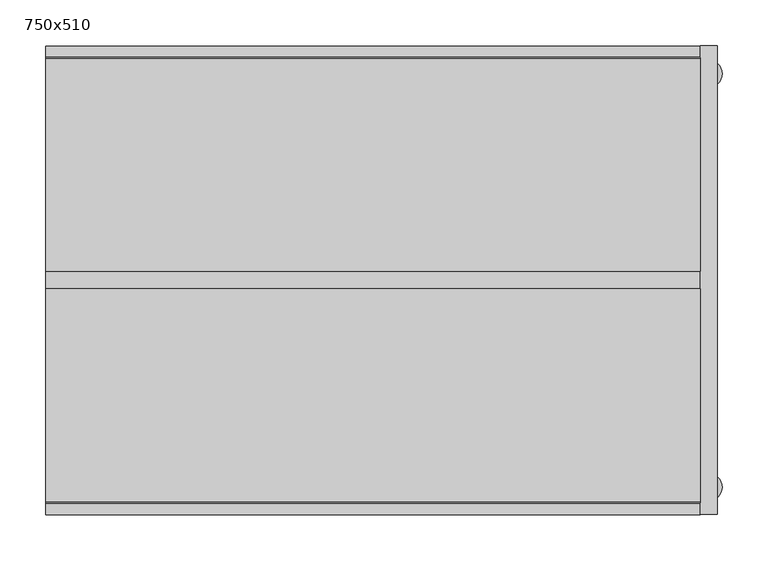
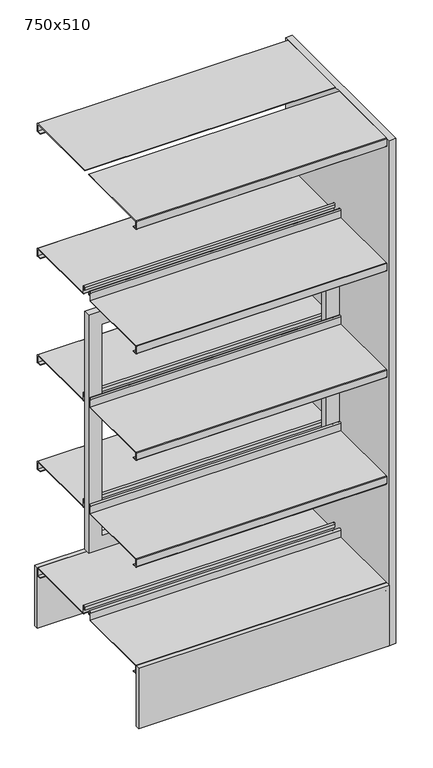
"""IFC4 building model written with IfcOpenShell, lengths in millimetres: furniture geometry, BK Library - Smaaland DF - 1530 : 750x510."""

from ifc_helpers import new_model, si_unit, point, frame, frame_2d, origin, origin_with_axes, place, context, project, spatial, polyline, circle_curve, trimmed, segment, composite_curve, outline, extrude, source, transform, mapped, element, save


def furniture_750x510_6c40ee6c(model_context):
    return source(origin(), model_context, "Body", "SweptSolid", [
        extrude(outline(polyline([(356.0, 255.0), (356.0, 242.7476624), (-356.0, 242.7476624), (-356.0, 255.0), (356.0, 255.0)])), frame((0.0, 0.0, 13.6999998), z_axis=(0.0, 0.0, 1.0), x_axis=(1.0, 0.0, 0.0)), (0.0, 0.0, 1.0), 181.4999514),
        extrude(outline(polyline([(356.0, -242.7476624), (356.0, -255.0), (-356.0, -255.0), (-356.0, -242.7476624), (356.0, -242.7476624)])), frame((0.0, 0.0, 13.6999998), z_axis=(0.0, 0.0, 1.0), x_axis=(1.0, 0.0, 0.0)), (0.0, 0.0, 1.0), 181.4999514),
        extrude(outline(polyline([(1106.1999512, -356.0), (391.1999512, -356.0), (391.1999512, 356.0), (1106.1999512, 356.0), (1106.1999512, -356.0)]), holes=[polyline([(1066.1999514, -317.5), (1066.1999514, 317.5), (431.1999514, 317.5), (431.1999514, -317.5), (1066.1999514, -317.5)])]), frame((0.0, -9.5, 0.0), z_axis=(0.0, 1.0, 0.0), x_axis=(0.0, 0.0, 1.0)), (0.0, 0.0, 1.0), 19.0),
        extrude(outline(composite_curve([segment(polyline([(9.5, 1530.0), (241.25, 1530.0)]), True, "CONTINUOUS"), segment(trimmed(circle_curve(frame_2d((241.25, 1528.5)), 1.5), [point((241.25, 1530.0))], [point((242.75, 1528.5))], False, "CARTESIAN"), True, "CONTINUOUS"), segment(polyline([(242.75, 1528.5), (242.75, 1506.5)]), True, "CONTINUOUS"), segment(trimmed(circle_curve(frame_2d((241.25, 1506.5)), 1.5), [point((242.75, 1506.5))], [point((241.25, 1505.0))], False, "CARTESIAN"), True, "CONTINUOUS"), segment(polyline([(241.25, 1505.0), (229.25, 1505.0), (229.25, 1506.5), (241.25, 1506.5), (241.25, 1528.0), (9.5, 1528.0), (9.5, 1530.0)]), True, "CONTINUOUS")], self_intersect=False)), frame((-356.0, 0.0, 0.0), z_axis=(1.0, 0.0, 0.0), x_axis=(0.0, 1.0, 0.0)), (0.0, 0.0, 1.0), 712.0),
        extrude(outline(composite_curve([segment(polyline([(17.75, 1155.1999512), (241.25, 1155.1999512)]), True, "CONTINUOUS"), segment(trimmed(circle_curve(frame_2d((241.25, 1153.6999512)), 1.5), [point((241.25, 1155.1999512))], [point((242.75, 1153.6999512))], False, "CARTESIAN"), True, "CONTINUOUS"), segment(polyline([(242.75, 1153.6999512), (242.75, 1132.1999512)]), True, "CONTINUOUS"), segment(trimmed(circle_curve(frame_2d((241.25, 1132.1999512)), 1.5), [point((242.75, 1132.1999512))], [point((241.25, 1130.6999512))], False, "CARTESIAN"), True, "CONTINUOUS"), segment(polyline([(241.25, 1130.6999512), (229.25, 1130.6999512), (229.25, 1132.1999512), (241.25, 1132.1999512), (241.25, 1153.6999512), (17.7048221, 1153.6999512)]), True, "CONTINUOUS"), segment(trimmed(circle_curve(frame_2d((17.7048221, 1155.1547733)), 1.4548221), [point((17.7048221, 1153.6999512))], [point((16.25, 1155.1547733))], False, "CARTESIAN"), True, "CONTINUOUS"), segment(polyline([(16.25, 1155.1547733), (16.25, 1176.7020126)]), True, "CONTINUOUS"), segment(trimmed(circle_curve(frame_2d((14.25, 1176.7020126)), 2.0), [point((16.25, 1176.7020126))], [point((12.25, 1176.7020126))], True, "CARTESIAN"), True, "CONTINUOUS"), segment(polyline([(12.25, 1176.7020126), (12.25, 1168.1999512), (10.75, 1168.1999512), (10.75, 1176.7196336)]), True, "CONTINUOUS"), segment(trimmed(circle_curve(frame_2d((14.25, 1176.7196336)), 3.5), [point((10.75, 1176.7196336))], [point((17.75, 1176.7196336))], False, "CARTESIAN"), True, "CONTINUOUS"), segment(polyline([(17.75, 1176.7196336), (17.75, 1155.1999512)]), True, "CONTINUOUS")], self_intersect=False)), frame((-356.0, 0.0, 0.0), z_axis=(1.0, 0.0, 0.0), x_axis=(0.0, 1.0, 0.0)), (0.0, 0.0, 1.0), 712.0),
        extrude(outline(composite_curve([segment(polyline([(17.75, 835.1999512), (241.25, 835.1999512)]), True, "CONTINUOUS"), segment(trimmed(circle_curve(frame_2d((241.25, 833.6999512)), 1.5), [point((241.25, 835.1999512))], [point((242.75, 833.6999512))], False, "CARTESIAN"), True, "CONTINUOUS"), segment(polyline([(242.75, 833.6999512), (242.75, 812.1999512)]), True, "CONTINUOUS"), segment(trimmed(circle_curve(frame_2d((241.25, 812.1999512)), 1.5), [point((242.75, 812.1999512))], [point((241.25, 810.6999512))], False, "CARTESIAN"), True, "CONTINUOUS"), segment(polyline([(241.25, 810.6999512), (229.25, 810.6999512), (229.25, 812.1999512), (241.25, 812.1999512), (241.25, 833.6999512), (17.7048221, 833.6999512)]), True, "CONTINUOUS"), segment(trimmed(circle_curve(frame_2d((17.7048221, 835.1547733)), 1.4548221), [point((17.7048221, 833.6999512))], [point((16.25, 835.1547733))], False, "CARTESIAN"), True, "CONTINUOUS"), segment(polyline([(16.25, 835.1547733), (16.25, 856.7020126)]), True, "CONTINUOUS"), segment(trimmed(circle_curve(frame_2d((14.25, 856.7020126)), 2.0), [point((16.25, 856.7020126))], [point((12.25, 856.7020126))], True, "CARTESIAN"), True, "CONTINUOUS"), segment(polyline([(12.25, 856.7020126), (12.25, 848.1999512), (10.75, 848.1999512), (10.75, 856.7196336)]), True, "CONTINUOUS"), segment(trimmed(circle_curve(frame_2d((14.25, 856.7196336)), 3.5), [point((10.75, 856.7196336))], [point((17.75, 856.7196336))], False, "CARTESIAN"), True, "CONTINUOUS"), segment(polyline([(17.75, 856.7196336), (17.75, 835.1999512)]), True, "CONTINUOUS")], self_intersect=False)), frame((-356.0, 0.0, 0.0), z_axis=(1.0, 0.0, 0.0), x_axis=(0.0, 1.0, 0.0)), (0.0, 0.0, 1.0), 712.0),
        extrude(outline(composite_curve([segment(polyline([(17.75, 515.1999512), (241.25, 515.1999512)]), True, "CONTINUOUS"), segment(trimmed(circle_curve(frame_2d((241.25, 513.6999512)), 1.5), [point((241.25, 515.1999512))], [point((242.75, 513.6999512))], False, "CARTESIAN"), True, "CONTINUOUS"), segment(polyline([(242.75, 513.6999512), (242.75, 492.1999512)]), True, "CONTINUOUS"), segment(trimmed(circle_curve(frame_2d((241.25, 492.1999512)), 1.5), [point((242.75, 492.1999512))], [point((241.25, 490.6999512))], False, "CARTESIAN"), True, "CONTINUOUS"), segment(polyline([(241.25, 490.6999512), (229.25, 490.6999512), (229.25, 492.1999512), (241.25, 492.1999512), (241.25, 513.6999512), (17.7048221, 513.6999512)]), True, "CONTINUOUS"), segment(trimmed(circle_curve(frame_2d((17.7048221, 515.1547733)), 1.4548221), [point((17.7048221, 513.6999512))], [point((16.25, 515.1547733))], False, "CARTESIAN"), True, "CONTINUOUS"), segment(polyline([(16.25, 515.1547733), (16.25, 536.7020126)]), True, "CONTINUOUS"), segment(trimmed(circle_curve(frame_2d((14.25, 536.7020126)), 2.0), [point((16.25, 536.7020126))], [point((12.25, 536.7020126))], True, "CARTESIAN"), True, "CONTINUOUS"), segment(polyline([(12.25, 536.7020126), (12.25, 528.1999512), (10.75, 528.1999512), (10.75, 536.7196336)]), True, "CONTINUOUS"), segment(trimmed(circle_curve(frame_2d((14.25, 536.7196336)), 3.5), [point((10.75, 536.7196336))], [point((17.75, 536.7196336))], False, "CARTESIAN"), True, "CONTINUOUS"), segment(polyline([(17.75, 536.7196336), (17.75, 515.1999512)]), True, "CONTINUOUS")], self_intersect=False)), frame((-356.0, 0.0, 0.0), z_axis=(1.0, 0.0, 0.0), x_axis=(0.0, 1.0, 0.0)), (0.0, 0.0, 1.0), 712.0),
        extrude(outline(composite_curve([segment(polyline([(17.75, 195.1999512), (241.25, 195.1999512)]), True, "CONTINUOUS"), segment(trimmed(circle_curve(frame_2d((241.25, 193.6999512)), 1.5), [point((241.25, 195.1999512))], [point((242.75, 193.6999512))], False, "CARTESIAN"), True, "CONTINUOUS"), segment(polyline([(242.75, 193.6999512), (242.75, 172.1999512)]), True, "CONTINUOUS"), segment(trimmed(circle_curve(frame_2d((241.25, 172.1999512)), 1.5), [point((242.75, 172.1999512))], [point((241.25, 170.6999512))], False, "CARTESIAN"), True, "CONTINUOUS"), segment(polyline([(241.25, 170.6999512), (229.25, 170.6999512), (229.25, 172.1999512), (241.25, 172.1999512), (241.25, 193.6999512), (17.7048221, 193.6999512)]), True, "CONTINUOUS"), segment(trimmed(circle_curve(frame_2d((17.7048221, 195.1547733)), 1.4548221), [point((17.7048221, 193.6999512))], [point((16.25, 195.1547733))], False, "CARTESIAN"), True, "CONTINUOUS"), segment(polyline([(16.25, 195.1547733), (16.25, 216.7020126)]), True, "CONTINUOUS"), segment(trimmed(circle_curve(frame_2d((14.25, 216.7020126)), 2.0), [point((16.25, 216.7020126))], [point((12.25, 216.7020126))], True, "CARTESIAN"), True, "CONTINUOUS"), segment(polyline([(12.25, 216.7020126), (12.25, 208.1999512), (10.75, 208.1999512), (10.75, 216.7196336)]), True, "CONTINUOUS"), segment(trimmed(circle_curve(frame_2d((14.25, 216.7196336)), 3.5), [point((10.75, 216.7196336))], [point((17.75, 216.7196336))], False, "CARTESIAN"), True, "CONTINUOUS"), segment(polyline([(17.75, 216.7196336), (17.75, 195.1999512)]), True, "CONTINUOUS")], self_intersect=False)), frame((-356.0, 0.0, 0.0), z_axis=(1.0, 0.0, 0.0), x_axis=(0.0, 1.0, 0.0)), (0.0, 0.0, 1.0), 712.0),
        extrude(outline(composite_curve([segment(polyline([(-9.5, 1530.0), (-9.5, 1528.0), (-241.25, 1528.0), (-241.25, 1506.5), (-229.25, 1506.5), (-229.25, 1505.0), (-241.25, 1505.0)]), True, "CONTINUOUS"), segment(trimmed(circle_curve(frame_2d((-241.25, 1506.5)), 1.5), [point((-241.25, 1505.0))], [point((-242.75, 1506.5))], False, "CARTESIAN"), True, "CONTINUOUS"), segment(polyline([(-242.75, 1506.5), (-242.75, 1528.5)]), True, "CONTINUOUS"), segment(trimmed(circle_curve(frame_2d((-241.25, 1528.5)), 1.5), [point((-242.75, 1528.5))], [point((-241.25, 1530.0))], False, "CARTESIAN"), True, "CONTINUOUS"), segment(polyline([(-241.25, 1530.0), (-9.5, 1530.0)]), True, "CONTINUOUS")], self_intersect=False)), frame((-356.0, 0.0, 0.0), z_axis=(1.0, 0.0, 0.0), x_axis=(0.0, 1.0, 0.0)), (0.0, 0.0, 1.0), 712.0),
        extrude(outline(composite_curve([segment(polyline([(-17.75, 1155.1999512), (-17.75, 1176.7196336)]), True, "CONTINUOUS"), segment(trimmed(circle_curve(frame_2d((-14.25, 1176.7196336)), 3.5), [point((-17.75, 1176.7196336))], [point((-10.75, 1176.7196336))], False, "CARTESIAN"), True, "CONTINUOUS"), segment(polyline([(-10.75, 1176.7196336), (-10.75, 1168.1999512), (-12.25, 1168.1999512), (-12.25, 1176.7020126)]), True, "CONTINUOUS"), segment(trimmed(circle_curve(frame_2d((-14.25, 1176.7020126)), 2.0), [point((-12.25, 1176.7020126))], [point((-16.25, 1176.7020126))], True, "CARTESIAN"), True, "CONTINUOUS"), segment(polyline([(-16.25, 1176.7020126), (-16.25, 1155.1547733)]), True, "CONTINUOUS"), segment(trimmed(circle_curve(frame_2d((-17.7048221, 1155.1547733)), 1.4548221), [point((-16.25, 1155.1547733))], [point((-17.7048221, 1153.6999512))], False, "CARTESIAN"), True, "CONTINUOUS"), segment(polyline([(-17.7048221, 1153.6999512), (-241.25, 1153.6999512), (-241.25, 1132.1999512), (-229.25, 1132.1999512), (-229.25, 1130.6999512), (-241.25, 1130.6999512)]), True, "CONTINUOUS"), segment(trimmed(circle_curve(frame_2d((-241.25, 1132.1999512)), 1.5), [point((-241.25, 1130.6999512))], [point((-242.75, 1132.1999512))], False, "CARTESIAN"), True, "CONTINUOUS"), segment(polyline([(-242.75, 1132.1999512), (-242.75, 1153.6999512)]), True, "CONTINUOUS"), segment(trimmed(circle_curve(frame_2d((-241.25, 1153.6999512)), 1.5), [point((-242.75, 1153.6999512))], [point((-241.25, 1155.1999512))], False, "CARTESIAN"), True, "CONTINUOUS"), segment(polyline([(-241.25, 1155.1999512), (-17.75, 1155.1999512)]), True, "CONTINUOUS")], self_intersect=False)), frame((-356.0, 0.0, 0.0), z_axis=(1.0, 0.0, 0.0), x_axis=(0.0, 1.0, 0.0)), (0.0, 0.0, 1.0), 712.0),
        extrude(outline(composite_curve([segment(polyline([(-17.75, 835.1999512), (-17.75, 856.7196336)]), True, "CONTINUOUS"), segment(trimmed(circle_curve(frame_2d((-14.25, 856.7196336)), 3.5), [point((-17.75, 856.7196336))], [point((-10.75, 856.7196336))], False, "CARTESIAN"), True, "CONTINUOUS"), segment(polyline([(-10.75, 856.7196336), (-10.75, 848.1999512), (-12.25, 848.1999512), (-12.25, 856.7020126)]), True, "CONTINUOUS"), segment(trimmed(circle_curve(frame_2d((-14.25, 856.7020126)), 2.0), [point((-12.25, 856.7020126))], [point((-16.25, 856.7020126))], True, "CARTESIAN"), True, "CONTINUOUS"), segment(polyline([(-16.25, 856.7020126), (-16.25, 835.1547733)]), True, "CONTINUOUS"), segment(trimmed(circle_curve(frame_2d((-17.7048221, 835.1547733)), 1.4548221), [point((-16.25, 835.1547733))], [point((-17.7048221, 833.6999512))], False, "CARTESIAN"), True, "CONTINUOUS"), segment(polyline([(-17.7048221, 833.6999512), (-241.25, 833.6999512), (-241.25, 812.1999512), (-229.25, 812.1999512), (-229.25, 810.6999512), (-241.25, 810.6999512)]), True, "CONTINUOUS"), segment(trimmed(circle_curve(frame_2d((-241.25, 812.1999512)), 1.5), [point((-241.25, 810.6999512))], [point((-242.75, 812.1999512))], False, "CARTESIAN"), True, "CONTINUOUS"), segment(polyline([(-242.75, 812.1999512), (-242.75, 833.6999512)]), True, "CONTINUOUS"), segment(trimmed(circle_curve(frame_2d((-241.25, 833.6999512)), 1.5), [point((-242.75, 833.6999512))], [point((-241.25, 835.1999512))], False, "CARTESIAN"), True, "CONTINUOUS"), segment(polyline([(-241.25, 835.1999512), (-17.75, 835.1999512)]), True, "CONTINUOUS")], self_intersect=False)), frame((-356.0, 0.0, 0.0), z_axis=(1.0, 0.0, 0.0), x_axis=(0.0, 1.0, 0.0)), (0.0, 0.0, 1.0), 712.0),
        extrude(outline(composite_curve([segment(polyline([(-17.75, 515.1999512), (-17.75, 536.7196336)]), True, "CONTINUOUS"), segment(trimmed(circle_curve(frame_2d((-14.25, 536.7196336)), 3.5), [point((-17.75, 536.7196336))], [point((-10.75, 536.7196336))], False, "CARTESIAN"), True, "CONTINUOUS"), segment(polyline([(-10.75, 536.7196336), (-10.75, 528.1999512), (-12.25, 528.1999512), (-12.25, 536.7020126)]), True, "CONTINUOUS"), segment(trimmed(circle_curve(frame_2d((-14.25, 536.7020126)), 2.0), [point((-12.25, 536.7020126))], [point((-16.25, 536.7020126))], True, "CARTESIAN"), True, "CONTINUOUS"), segment(polyline([(-16.25, 536.7020126), (-16.25, 515.1547733)]), True, "CONTINUOUS"), segment(trimmed(circle_curve(frame_2d((-17.7048221, 515.1547733)), 1.4548221), [point((-16.25, 515.1547733))], [point((-17.7048221, 513.6999512))], False, "CARTESIAN"), True, "CONTINUOUS"), segment(polyline([(-17.7048221, 513.6999512), (-241.25, 513.6999512), (-241.25, 492.1999512), (-229.25, 492.1999512), (-229.25, 490.6999512), (-241.25, 490.6999512)]), True, "CONTINUOUS"), segment(trimmed(circle_curve(frame_2d((-241.25, 492.1999512)), 1.5), [point((-241.25, 490.6999512))], [point((-242.75, 492.1999512))], False, "CARTESIAN"), True, "CONTINUOUS"), segment(polyline([(-242.75, 492.1999512), (-242.75, 513.6999512)]), True, "CONTINUOUS"), segment(trimmed(circle_curve(frame_2d((-241.25, 513.6999512)), 1.5), [point((-242.75, 513.6999512))], [point((-241.25, 515.1999512))], False, "CARTESIAN"), True, "CONTINUOUS"), segment(polyline([(-241.25, 515.1999512), (-17.75, 515.1999512)]), True, "CONTINUOUS")], self_intersect=False)), frame((-356.0, 0.0, 0.0), z_axis=(1.0, 0.0, 0.0), x_axis=(0.0, 1.0, 0.0)), (0.0, 0.0, 1.0), 712.0),
        extrude(outline(composite_curve([segment(polyline([(-17.75, 195.1999512), (-17.75, 216.7196336)]), True, "CONTINUOUS"), segment(trimmed(circle_curve(frame_2d((-14.25, 216.7196336)), 3.5), [point((-17.75, 216.7196336))], [point((-10.75, 216.7196336))], False, "CARTESIAN"), True, "CONTINUOUS"), segment(polyline([(-10.75, 216.7196336), (-10.75, 208.1999512), (-12.25, 208.1999512), (-12.25, 216.7020126)]), True, "CONTINUOUS"), segment(trimmed(circle_curve(frame_2d((-14.25, 216.7020126)), 2.0), [point((-12.25, 216.7020126))], [point((-16.25, 216.7020126))], True, "CARTESIAN"), True, "CONTINUOUS"), segment(polyline([(-16.25, 216.7020126), (-16.25, 195.1547733)]), True, "CONTINUOUS"), segment(trimmed(circle_curve(frame_2d((-17.7048221, 195.1547733)), 1.4548221), [point((-16.25, 195.1547733))], [point((-17.7048221, 193.6999512))], False, "CARTESIAN"), True, "CONTINUOUS"), segment(polyline([(-17.7048221, 193.6999512), (-241.25, 193.6999512), (-241.25, 172.1999512), (-229.25, 172.1999512), (-229.25, 170.6999512), (-241.25, 170.6999512)]), True, "CONTINUOUS"), segment(trimmed(circle_curve(frame_2d((-241.25, 172.1999512)), 1.5), [point((-241.25, 170.6999512))], [point((-242.75, 172.1999512))], False, "CARTESIAN"), True, "CONTINUOUS"), segment(polyline([(-242.75, 172.1999512), (-242.75, 193.6999512)]), True, "CONTINUOUS"), segment(trimmed(circle_curve(frame_2d((-241.25, 193.6999512)), 1.5), [point((-242.75, 193.6999512))], [point((-241.25, 195.1999512))], False, "CARTESIAN"), True, "CONTINUOUS"), segment(polyline([(-241.25, 195.1999512), (-17.75, 195.1999512)]), True, "CONTINUOUS")], self_intersect=False)), frame((-356.0, 0.0, 0.0), z_axis=(1.0, 0.0, 0.0), x_axis=(0.0, 1.0, 0.0)), (0.0, 0.0, 1.0), 712.0),
        extrude(outline(polyline([(356.0, 255.0), (375.0, 255.0), (375.0, -255.0), (356.0, -255.0), (356.0, 255.0)])), frame((0.0, 0.0, 13.6999998), z_axis=(0.0, 0.0, 1.0), x_axis=(1.0, 0.0, 0.0)), (0.0, 0.0, 1.0), 1516.3000002),
        extrude(outline(composite_curve([segment(trimmed(circle_curve(frame_2d((365.5005427, 224.9952633)), 14.4994573), [point((380.0, 224.9952633))], [point((351.0010853, 224.9952633))], False, "CARTESIAN"), True, "CONTINUOUS"), segment(trimmed(circle_curve(frame_2d((365.5005427, 224.9952633)), 14.4994573), [point((351.0010853, 224.9952633))], [point((380.0, 224.9952633))], False, "CARTESIAN"), True, "CONTINUOUS")], self_intersect=False)), origin_with_axes(), (0.0, 0.0, 1.0), 13.6999998),
        extrude(outline(composite_curve([segment(trimmed(circle_curve(frame_2d((365.5005427, -224.9952633)), 14.4994573), [point((380.0, -224.9952633))], [point((351.0010853, -224.9952633))], False, "CARTESIAN"), True, "CONTINUOUS"), segment(trimmed(circle_curve(frame_2d((365.5005427, -224.9952633)), 14.4994573), [point((351.0010853, -224.9952633))], [point((380.0, -224.9952633))], False, "CARTESIAN"), True, "CONTINUOUS")], self_intersect=False)), origin_with_axes(), (0.0, 0.0, 1.0), 13.6999998),
    ])


if __name__ == "__main__":
    model = new_model("IFC4")
    model_context = context("Model", 3, world=origin())
    ifc_project = project(units=[si_unit("LENGTHUNIT", "METRE", prefix="MILLI")], contexts=[model_context])
    site = spatial("IfcSite", under=ifc_project)
    building = spatial("IfcBuilding", under=site)
    placement = place(None, origin())
    furniture_750x510_shape = furniture_750x510_6c40ee6c(model_context)
    element("IfcFurniture", 1, ObjectType="BK Library - Smaaland DF - 1530 : 750x510", at=placement, inside=building, context=model_context, shape_type="MappedRepresentation", body=[
        mapped(furniture_750x510_shape, transform((0.0, 0.0, 0.0), x_axis=(1.0, 0.0, 0.0), y_axis=(0.0, 1.0, 0.0), z_axis=(0.0, 0.0, 1.0))),
    ])
    save(model, "model.ifc")
